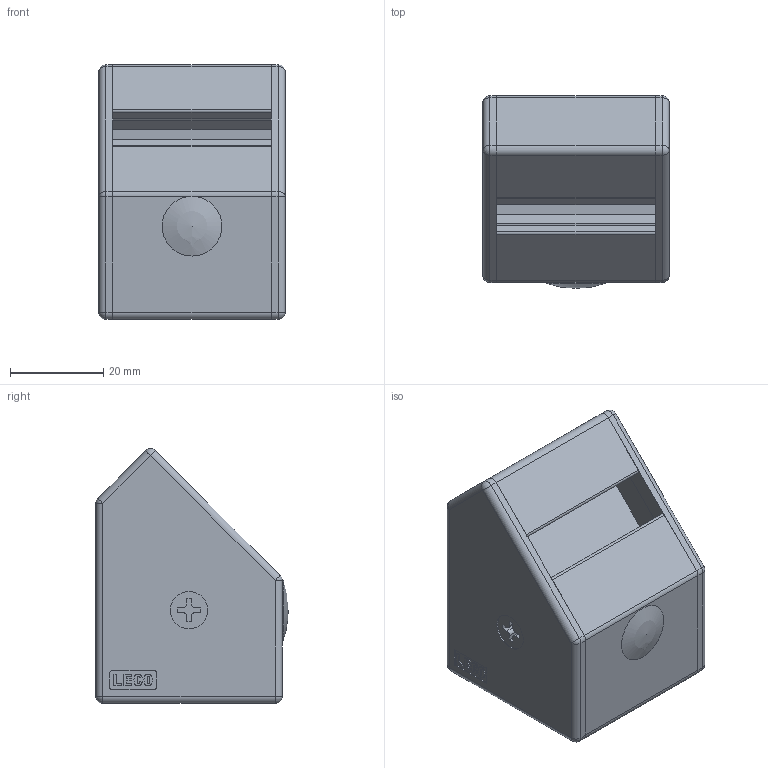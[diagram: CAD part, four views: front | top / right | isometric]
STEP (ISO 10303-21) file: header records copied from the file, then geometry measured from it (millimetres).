
FILE_DESCRIPTION(('STEP AP214'),'1');
FILE_NAME('PB4HA-L40.stp','2021-02-08T08:00:21',(' '),(' '),'Spatial InterOp 3D',' ',' ');
FILE_SCHEMA(('automotive_design'));
Length unit declared in the file: millimetre
Products named in the file (5): PB4HA-L40; PB4HA-40; CP10; E40A-R; E40A-L
Assembly tree (4 placements, depth 2):
  PB4HA-L40
    PB4HA-40
    CP10
    E40A-R
    E40A-L
Bounding box: 40 x 41.28 x 54.66 mm (x, y, z)
Volume: 29993.1 mm3; surface area: 28565 mm2
Topology: 4 solids, 4 shells, 541 faces, 1433 edges, 894 vertices
Faces by surface type: plane 257, cylinder 211, bspline 40, sphere 23, torus 9, cone 1
Full cylindrical faces by diameter (mm): 5.1 x1, 7.2 x1, 8 x2, 10 x2, 10.2 x1
Entity records: 26301 total; most frequent: CARTESIAN_POINT 8503, DIRECTION 2843, ORIENTED_EDGE 2782, EDGE_CURVE 1391, AXIS2_PLACEMENT_3D 990, VERTEX_POINT 888, LINE 863, VECTOR 863
